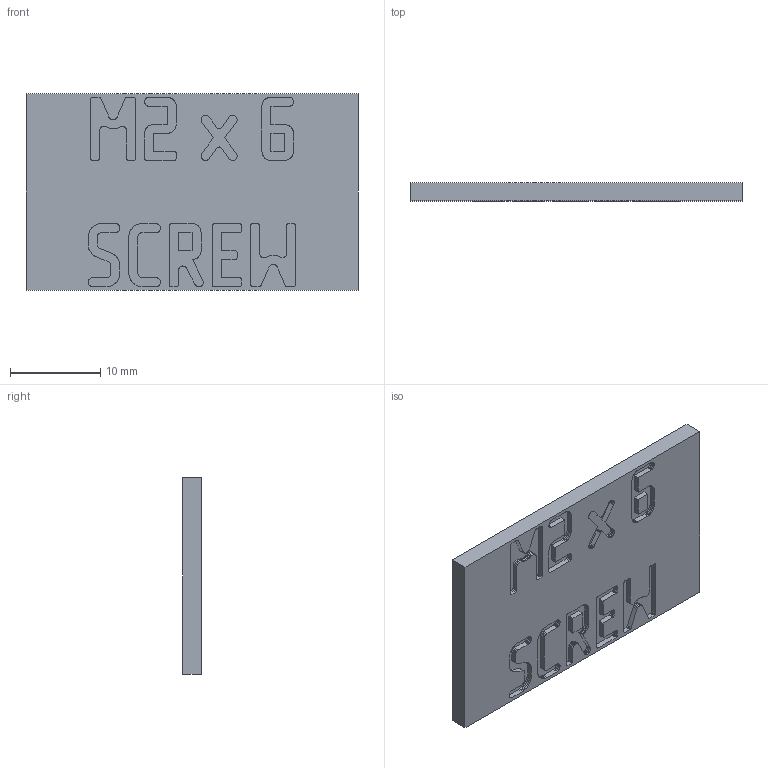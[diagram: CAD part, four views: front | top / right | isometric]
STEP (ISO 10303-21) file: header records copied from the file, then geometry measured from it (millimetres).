
FILE_DESCRIPTION(('Open CASCADE Model'),'2;1');
FILE_NAME('Open CASCADE Shape Model','2026-11-03T17:10:14',('Author'),( 'Open CASCADE'),'Open CASCADE STEP processor 8.0','build123d', 'Unknown');
FILE_SCHEMA(('AUTOMOTIVE_DESIGN { 1 0 10303 214 1 1 1 1 }'));
Length unit declared in the file: millimetre
Products named in the file (2): =>[0:1:1:2]; COMPOUND
Assembly tree (1 placements, depth 2):
  =>[0:1:1:2]
    COMPOUND
Bounding box: 36.8 x 2 x 21.8 mm (x, y, z)
Volume: 1524.8 mm3; surface area: 1993.5 mm2
Topology: 1 solids, 1 shells, 1038 faces, 3075 edges, 2050 vertices
Faces by surface type: plane 1038
Entity records: 73962 total; most frequent: CARTESIAN_POINT 12315, DIRECTION 11305, LINE 9225, VECTOR 9225, ORIENTED_EDGE 6150, PCURVE 6150, DEFINITIONAL_REPRESENTATION 6150, EDGE_CURVE 3075
